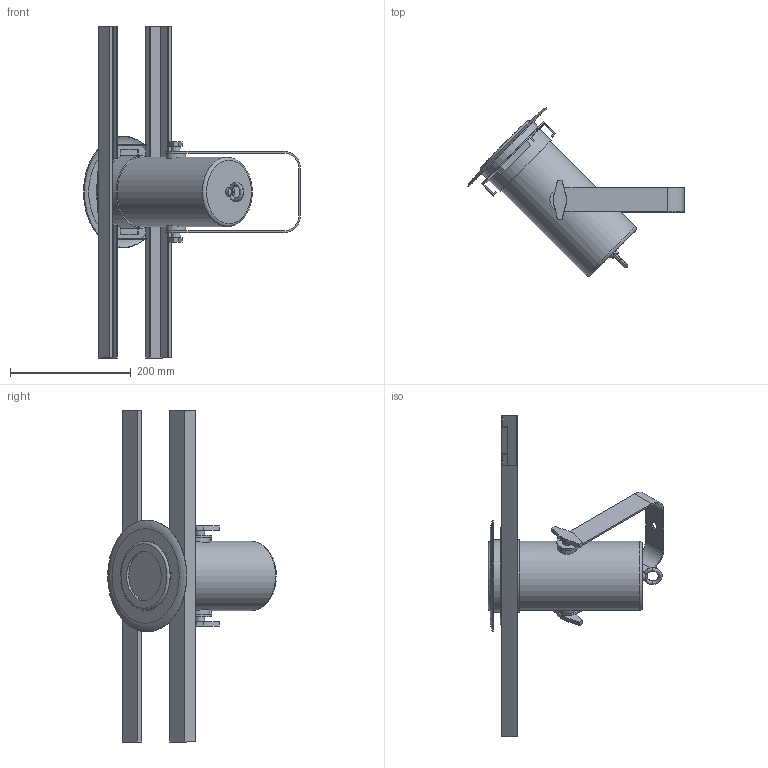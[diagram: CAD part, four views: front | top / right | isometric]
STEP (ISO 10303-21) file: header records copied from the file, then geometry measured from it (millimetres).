
FILE_DESCRIPTION(/* description */ (''),/* implementation_level */ '2;1');
FILE_NAME(/* name */ 'D:/dgooch/Documents/CADENG/PRO/Ovation H-55WW/45/3D/Ovation H-55WW_W_Install_Bracket_45.step',/* time_stamp */ '2019-11-13T10:17:30-05:00',/* author */ (''),/* organization */ (''),/* preprocessor_version */ 'ST-DEVELOPER v18',/* originating_system */ 'Autodesk Translation Framework v8.12.0.6',/* authorisation */ '');
FILE_SCHEMA (('AUTOMOTIVE_DESIGN { 1 0 10303 214 3 1 1 }'));
Length unit declared in the file: millimetre
Products named in the file (5): Ovation Mini Houselight; Bracket; Mian; Install_Bracket; Ring
Assembly tree (4 placements, depth 3):
  Ovation Mini Houselight
    Bracket
    Mian
      Install_Bracket
      Ring
Bounding box: 359.42 x 279.59 x 550 mm (x, y, z)
Volume: 2959832.3 mm3; surface area: 407897.2 mm2
Topology: 4 solids, 4 shells, 141 faces, 361 edges, 234 vertices
Faces by surface type: plane 100, cylinder 18, cone 12, bspline 6, torus 5
Full cylindrical faces by diameter (mm): 8.1 x2, 13 x1, 15.3 x1, 32.439 x2, 81 x1, 114.646 x1, 115 x1, 120 x1
Entity records: 6220 total; most frequent: CARTESIAN_POINT 2655, ORIENTED_EDGE 722, DIRECTION 702, EDGE_CURVE 361, LINE 244, VECTOR 244, VERTEX_POINT 234, AXIS2_PLACEMENT_3D 229
